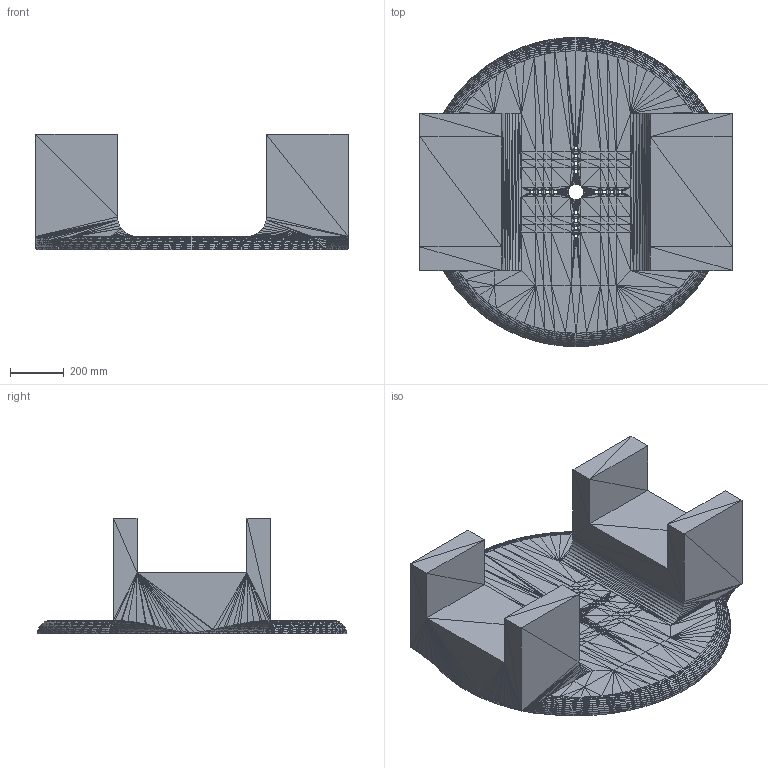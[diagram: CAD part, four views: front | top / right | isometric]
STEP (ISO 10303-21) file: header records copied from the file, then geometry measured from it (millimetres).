
FILE_DESCRIPTION(/* description */ (''),/* implementation_level */ '2;1');
FILE_NAME(/* name */ 'Shoulder_top.step',/* time_stamp */ '2026-08-26T22:04:46+02:00',/* author */ (''),/* organization */ (''),/* preprocessor_version */ 'ST-DEVELOPER v20.1',/* originating_system */ 'Autodesk Translation Framework v15.8.0.0',/* authorisation */ '');
FILE_SCHEMA (('AUTOMOTIVE_DESIGN { 1 0 10303 214 3 1 1 }'));
Products named in the file (1): 2026-08-26-22-04-27-397
Bounding box: 1162.05 x 1150 x 431 mm (x, y, z)
Volume: 137727990.7 mm3; surface area: 3540554.6 mm2
Topology: 1 solids, 1 shells, 4938 faces, 7407 edges, 2437 vertices
Faces by surface type: plane 4938
Entity records: 96268 total; most frequent: DIRECTION 17285, ORIENTED_EDGE 14814, CARTESIAN_POINT 14783, LINE 7407, VECTOR 7407, EDGE_CURVE 7407, AXIS2_PLACEMENT_3D 4939, FACE_OUTER_BOUND 4938
